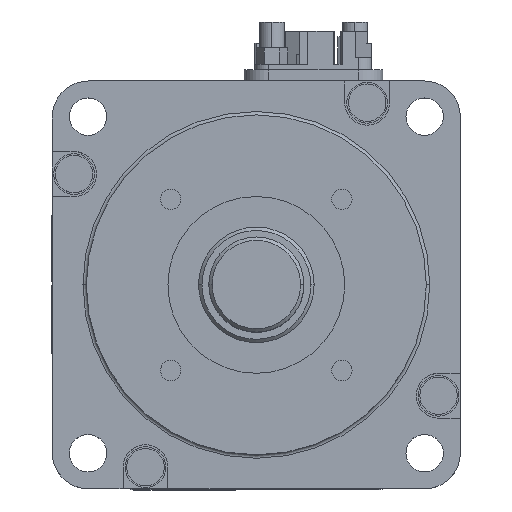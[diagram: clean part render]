
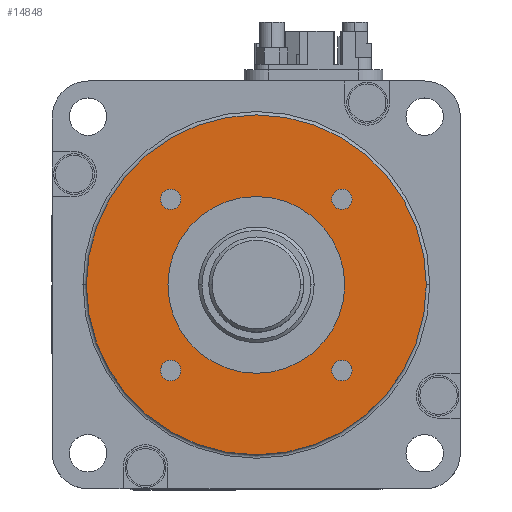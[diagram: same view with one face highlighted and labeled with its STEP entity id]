
A CAD part, top view. The second image highlights one B-rep face of the part: STEP entity #14848.
In plain terms, the highlighted planar face has unit normal (0, 0, 1).
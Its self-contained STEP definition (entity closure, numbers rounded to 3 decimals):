
#17 = EDGE_CURVE ( 'NONE', #509, #17333, #13761, .T. ) ;
#87 = AXIS2_PLACEMENT_3D ( 'NONE', #16423, #7155, #17908 ) ;
#163 = CARTESIAN_POINT ( 'NONE',  ( -14.087, -12.587, 3. ) ) ;
#465 = FACE_BOUND ( 'NONE', #12718, .T. ) ;
#485 = CARTESIAN_POINT ( 'NONE',  ( -12.587, -12.587, 3. ) ) ;
#509 = VERTEX_POINT ( 'NONE', #12267 ) ;
#837 = AXIS2_PLACEMENT_3D ( 'NONE', #12291, #2956, #13805 ) ;
#890 = ORIENTED_EDGE ( 'NONE', *, *, #18844, .F. ) ;
#1194 = CARTESIAN_POINT ( 'NONE',  ( 0., 0., 3. ) ) ;
#1521 = CIRCLE ( 'NONE', #87, 1.5 ) ;
#1719 = DIRECTION ( 'NONE',  ( 0., 0., 1. ) ) ;
#1869 = DIRECTION ( 'NONE',  ( 0., 0., 1. ) ) ;
#2014 = DIRECTION ( 'NONE',  ( 1., 0., 0. ) ) ;
#2046 = DIRECTION ( 'NONE',  ( 1., 0., 0. ) ) ;
#2318 = VERTEX_POINT ( 'NONE', #18265 ) ;
#2339 = ORIENTED_EDGE ( 'NONE', *, *, #16816, .F. ) ;
#2354 = VERTEX_POINT ( 'NONE', #12543 ) ;
#2577 = VERTEX_POINT ( 'NONE', #15972 ) ;
#2719 = DIRECTION ( 'NONE',  ( 1., 0., 0. ) ) ;
#2956 = DIRECTION ( 'NONE',  ( 0., 0., 1. ) ) ;
#3073 = ORIENTED_EDGE ( 'NONE', *, *, #5531, .F. ) ;
#3082 = DIRECTION ( 'NONE',  ( 0., 0., 1. ) ) ;
#3092 = CARTESIAN_POINT ( 'NONE',  ( 12.587, -12.587, 3. ) ) ;
#3178 = EDGE_CURVE ( 'NONE', #17333, #509, #8155, .T. ) ;
#3239 = DIRECTION ( 'NONE',  ( 1., 0., 0. ) ) ;
#3407 = AXIS2_PLACEMENT_3D ( 'NONE', #12417, #3082, #13940 ) ;
#3594 = CARTESIAN_POINT ( 'NONE',  ( 14.087, 12.587, 3. ) ) ;
#3707 = VERTEX_POINT ( 'NONE', #163 ) ;
#3758 = DIRECTION ( 'NONE',  ( 0., 0., 1. ) ) ;
#3792 = DIRECTION ( 'NONE',  ( 0., 0., 1. ) ) ;
#4154 = AXIS2_PLACEMENT_3D ( 'NONE', #13058, #3758, #14592 ) ;
#4432 = CIRCLE ( 'NONE', #12856, 1.5 ) ;
#5126 = ORIENTED_EDGE ( 'NONE', *, *, #11235, .F. ) ;
#5366 = CARTESIAN_POINT ( 'NONE',  ( 0., 0., 3. ) ) ;
#5531 = EDGE_CURVE ( 'NONE', #3707, #9767, #17299, .T. ) ;
#5651 = CIRCLE ( 'NONE', #17209, 1.5 ) ;
#5913 = ORIENTED_EDGE ( 'NONE', *, *, #15727, .T. ) ;
#6221 = VERTEX_POINT ( 'NONE', #6402 ) ;
#6402 = CARTESIAN_POINT ( 'NONE',  ( 13., 0., 3. ) ) ;
#6426 = DIRECTION ( 'NONE',  ( 0., 0., 1. ) ) ;
#6664 = CARTESIAN_POINT ( 'NONE',  ( -12.587, -12.587, 3. ) ) ;
#6931 = DIRECTION ( 'NONE',  ( 1., 0., 0. ) ) ;
#7155 = DIRECTION ( 'NONE',  ( 0., 0., 1. ) ) ;
#7680 = FACE_OUTER_BOUND ( 'NONE', #18581, .T. ) ;
#7870 = ORIENTED_EDGE ( 'NONE', *, *, #3178, .F. ) ;
#8155 = CIRCLE ( 'NONE', #12205, 1.5 ) ;
#8187 = FACE_BOUND ( 'NONE', #15045, .T. ) ;
#8230 = DIRECTION ( 'NONE',  ( 1., 0., 0. ) ) ;
#8816 = CIRCLE ( 'NONE', #3407, 1.5 ) ;
#8826 = CARTESIAN_POINT ( 'NONE',  ( -12.587, 12.587, 3. ) ) ;
#9107 = EDGE_LOOP ( 'NONE', ( #19572, #7870 ) ) ;
#9227 = CARTESIAN_POINT ( 'NONE',  ( 11.087, 12.587, 3. ) ) ;
#9320 = AXIS2_PLACEMENT_3D ( 'NONE', #5366, #16195, #6931 ) ;
#9611 = AXIS2_PLACEMENT_3D ( 'NONE', #1194, #12025, #2719 ) ;
#9767 = VERTEX_POINT ( 'NONE', #11084 ) ;
#10131 = CARTESIAN_POINT ( 'NONE',  ( -13., 0., 3. ) ) ;
#10292 = AXIS2_PLACEMENT_3D ( 'NONE', #6664, #17400, #8230 ) ;
#10397 = DIRECTION ( 'NONE',  ( 1., 0., 0. ) ) ;
#10603 = VERTEX_POINT ( 'NONE', #10131 ) ;
#10819 = EDGE_LOOP ( 'NONE', ( #16392, #19225 ) ) ;
#11084 = CARTESIAN_POINT ( 'NONE',  ( -11.087, -12.587, 3. ) ) ;
#11235 = EDGE_CURVE ( 'NONE', #10603, #6221, #13986, .T. ) ;
#11264 = DIRECTION ( 'NONE',  ( 0., 0., 1. ) ) ;
#11423 = PLANE ( 'NONE',  #4154 ) ;
#11832 = FACE_BOUND ( 'NONE', #13493, .T. ) ;
#12025 = DIRECTION ( 'NONE',  ( 0., 0., 1. ) ) ;
#12205 = AXIS2_PLACEMENT_3D ( 'NONE', #17271, #1869, #3239 ) ;
#12267 = CARTESIAN_POINT ( 'NONE',  ( 14.087, -12.587, 3. ) ) ;
#12291 = CARTESIAN_POINT ( 'NONE',  ( 0., 0., 3. ) ) ;
#12413 = EDGE_CURVE ( 'NONE', #2354, #19710, #17418, .T. ) ;
#12417 = CARTESIAN_POINT ( 'NONE',  ( -12.587, 12.587, 3. ) ) ;
#12543 = CARTESIAN_POINT ( 'NONE',  ( -25., 0., 3. ) ) ;
#12699 = EDGE_CURVE ( 'NONE', #2577, #2318, #8816, .T. ) ;
#12718 = EDGE_LOOP ( 'NONE', ( #18868, #3073 ) ) ;
#12856 = AXIS2_PLACEMENT_3D ( 'NONE', #15662, #6426, #17175 ) ;
#13058 = CARTESIAN_POINT ( 'NONE',  ( 0., 0., 3. ) ) ;
#13087 = CARTESIAN_POINT ( 'NONE',  ( 0., 0., 3. ) ) ;
#13493 = EDGE_LOOP ( 'NONE', ( #890, #5126 ) ) ;
#13761 = CIRCLE ( 'NONE', #16455, 1.5 ) ;
#13805 = DIRECTION ( 'NONE',  ( 1., 0., 0. ) ) ;
#13940 = DIRECTION ( 'NONE',  ( 1., 0., 0. ) ) ;
#13986 = CIRCLE ( 'NONE', #9611, 13. ) ;
#14592 = DIRECTION ( 'NONE',  ( 1., 0., 0. ) ) ;
#14618 = DIRECTION ( 'NONE',  ( 1., 0., 0. ) ) ;
#14848 = ADVANCED_FACE ( 'NONE', ( #19957, #465, #8187, #15911, #11832, #7680 ), #11423, .T. ) ;
#14953 = ORIENTED_EDGE ( 'NONE', *, *, #12413, .T. ) ;
#15045 = EDGE_LOOP ( 'NONE', ( #16597, #2339 ) ) ;
#15154 = CIRCLE ( 'NONE', #9320, 13. ) ;
#15286 = CIRCLE ( 'NONE', #10292, 1.5 ) ;
#15381 = VERTEX_POINT ( 'NONE', #3594 ) ;
#15524 = CARTESIAN_POINT ( 'NONE',  ( 25., 0., 3. ) ) ;
#15662 = CARTESIAN_POINT ( 'NONE',  ( 12.587, 12.587, 3. ) ) ;
#15727 = EDGE_CURVE ( 'NONE', #19710, #2354, #16749, .T. ) ;
#15911 = FACE_BOUND ( 'NONE', #10819, .T. ) ;
#15972 = CARTESIAN_POINT ( 'NONE',  ( -11.087, 12.587, 3. ) ) ;
#16195 = DIRECTION ( 'NONE',  ( 0., 0., 1. ) ) ;
#16392 = ORIENTED_EDGE ( 'NONE', *, *, #17269, .F. ) ;
#16423 = CARTESIAN_POINT ( 'NONE',  ( 12.587, 12.587, 3. ) ) ;
#16426 = VERTEX_POINT ( 'NONE', #9227 ) ;
#16455 = AXIS2_PLACEMENT_3D ( 'NONE', #3092, #1719, #2046 ) ;
#16597 = ORIENTED_EDGE ( 'NONE', *, *, #12699, .F. ) ;
#16749 = CIRCLE ( 'NONE', #837, 25. ) ;
#16816 = EDGE_CURVE ( 'NONE', #2318, #2577, #5651, .T. ) ;
#17175 = DIRECTION ( 'NONE',  ( 1., 0., 0. ) ) ;
#17209 = AXIS2_PLACEMENT_3D ( 'NONE', #8826, #19544, #10397 ) ;
#17269 = EDGE_CURVE ( 'NONE', #15381, #16426, #1521, .T. ) ;
#17271 = CARTESIAN_POINT ( 'NONE',  ( 12.587, -12.587, 3. ) ) ;
#17299 = CIRCLE ( 'NONE', #17363, 1.5 ) ;
#17333 = VERTEX_POINT ( 'NONE', #18213 ) ;
#17363 = AXIS2_PLACEMENT_3D ( 'NONE', #485, #11264, #2014 ) ;
#17400 = DIRECTION ( 'NONE',  ( 0., 0., 1. ) ) ;
#17418 = CIRCLE ( 'NONE', #18019, 25. ) ;
#17908 = DIRECTION ( 'NONE',  ( 1., 0., 0. ) ) ;
#18019 = AXIS2_PLACEMENT_3D ( 'NONE', #13087, #3792, #14618 ) ;
#18213 = CARTESIAN_POINT ( 'NONE',  ( 11.087, -12.587, 3. ) ) ;
#18265 = CARTESIAN_POINT ( 'NONE',  ( -14.087, 12.587, 3. ) ) ;
#18581 = EDGE_LOOP ( 'NONE', ( #14953, #5913 ) ) ;
#18844 = EDGE_CURVE ( 'NONE', #6221, #10603, #15154, .T. ) ;
#18868 = ORIENTED_EDGE ( 'NONE', *, *, #19967, .F. ) ;
#19225 = ORIENTED_EDGE ( 'NONE', *, *, #19768, .F. ) ;
#19544 = DIRECTION ( 'NONE',  ( 0., 0., 1. ) ) ;
#19572 = ORIENTED_EDGE ( 'NONE', *, *, #17, .F. ) ;
#19710 = VERTEX_POINT ( 'NONE', #15524 ) ;
#19768 = EDGE_CURVE ( 'NONE', #16426, #15381, #4432, .T. ) ;
#19957 = FACE_BOUND ( 'NONE', #9107, .T. ) ;
#19967 = EDGE_CURVE ( 'NONE', #9767, #3707, #15286, .T. ) ;
